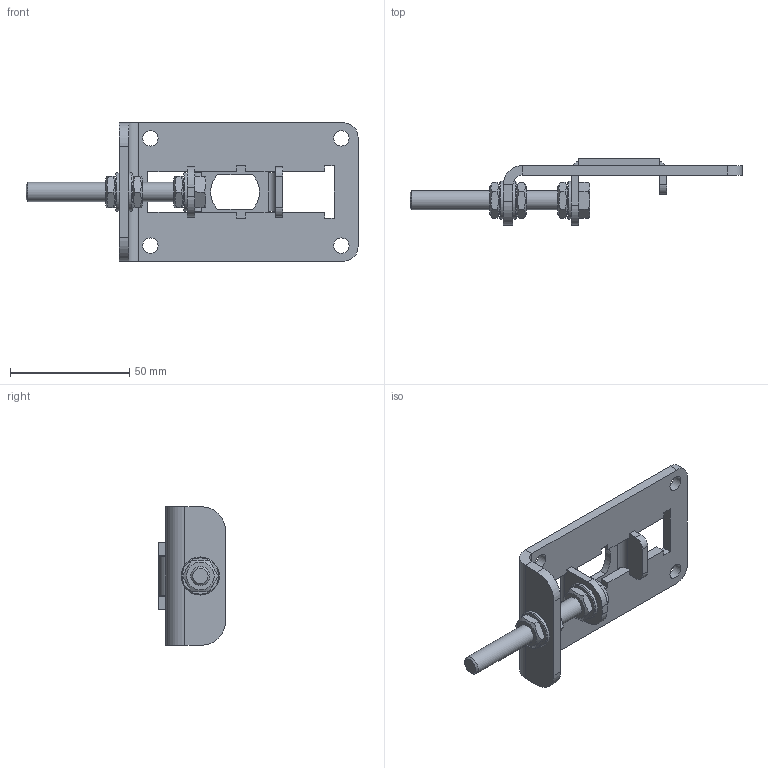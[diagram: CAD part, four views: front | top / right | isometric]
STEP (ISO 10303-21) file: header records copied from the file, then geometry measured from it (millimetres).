
FILE_DESCRIPTION(/* description */ (''),/* implementation_level */ '2;1');
FILE_NAME(/* name */ 'C:\Users\Gunnar Hansen\Documents\Inventor tegninger\00 Standart komponenter\Tromlemotorer\Beslag\Strammer SDS60-80 BL20-14\SDS 60-80 BL20-14.stp',/* time_stamp */ '2015-12-02T15:31:15+01:00',/* author */ ('Gunnar Hansen'),/* organization */ (''),/* preprocessor_version */ 'ST-DEVELOPER v15.6',/* originating_system */ 'Autodesk Inventor 2015',/* authorisation */ '');
FILE_SCHEMA (('AUTOMOTIVE_DESIGN { 1 0 10303 214 3 1 1 }'));
Length unit declared in the file: millimetre
Products named in the file (6): Strammeplade SDS Ø 60-80; Glideplade SDS 60-80 BL20-14; DIN 125-2 -  8,4B; ISO 4017 - M8 x 70DIN EN; ISO 4035 - M8ISO; SDS 60-80  BL20-14
Bounding box: 139.1 x 28 x 58 mm (x, y, z)
Volume: 31145.9 mm3; surface area: 21552 mm2
Topology: 9 solids, 9 shells, 162 faces, 391 edges, 249 vertices
Faces by surface type: plane 106, cylinder 34, cone 22
Full cylindrical faces by diameter (mm): 6.5 x4, 6.647 x3, 8 x1, 8.4 x3, 9 x1, 11.63 x1, 16 x3
Entity records: 3805 total; most frequent: CARTESIAN_POINT 687, DIRECTION 624, ORIENTED_EDGE 596, EDGE_CURVE 298, AXIS2_PLACEMENT_3D 209, LINE 206, VECTOR 206, VERTEX_POINT 200
